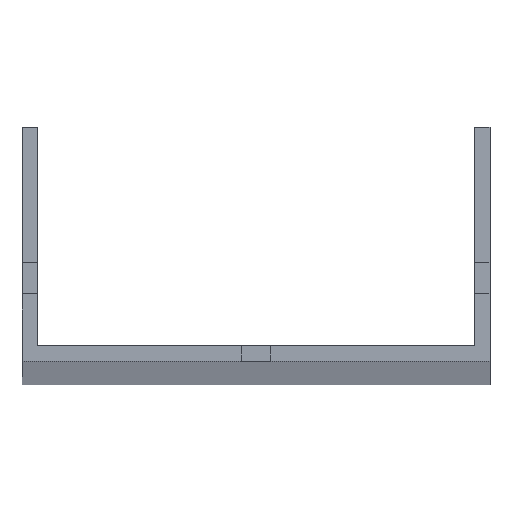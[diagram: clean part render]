
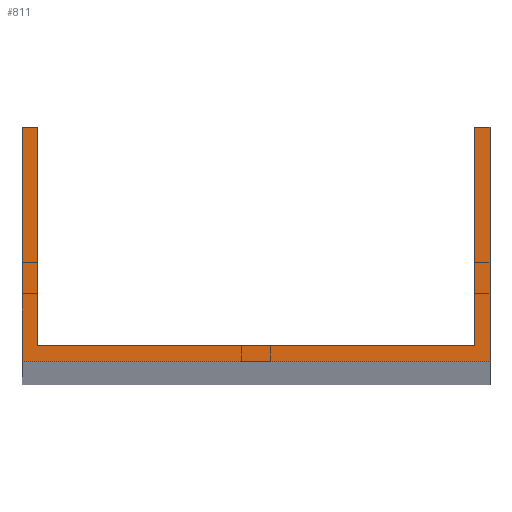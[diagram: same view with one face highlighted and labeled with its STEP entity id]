
A CAD part, top view. The second image highlights one B-rep face of the part: STEP entity #811.
In plain terms, the highlighted planar face has unit normal (0, 0, 1).
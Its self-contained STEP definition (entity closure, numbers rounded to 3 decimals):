
#9 = CARTESIAN_POINT ( 'NONE',  ( 48.5, 52., 1500. ) ) ;
#15 = CARTESIAN_POINT ( 'NONE',  ( -48.5, 3.5, 1500. ) ) ;
#21 = CARTESIAN_POINT ( 'NONE',  ( -52., 52., 1500. ) ) ;
#34 = EDGE_CURVE ( 'NONE', #265, #203, #524, .T. ) ;
#71 = EDGE_CURVE ( 'NONE', #82, #104, #382, .T. ) ;
#76 = CARTESIAN_POINT ( 'NONE',  ( 0., 0., 1500. ) ) ;
#82 = VERTEX_POINT ( 'NONE', #986 ) ;
#100 = VECTOR ( 'NONE', #377, 1000. ) ;
#104 = VERTEX_POINT ( 'NONE', #15 ) ;
#124 = ORIENTED_EDGE ( 'NONE', *, *, #615, .T. ) ;
#157 = PLANE ( 'NONE',  #423 ) ;
#183 = LINE ( 'NONE', #791, #1119 ) ;
#192 = CARTESIAN_POINT ( 'NONE',  ( -52., 0., 1500. ) ) ;
#203 = VERTEX_POINT ( 'NONE', #192 ) ;
#222 = EDGE_CURVE ( 'NONE', #104, #679, #183, .T. ) ;
#231 = EDGE_CURVE ( 'NONE', #82, #265, #1004, .T. ) ;
#240 = VERTEX_POINT ( 'NONE', #826 ) ;
#265 = VERTEX_POINT ( 'NONE', #314 ) ;
#281 = VECTOR ( 'NONE', #368, 1000. ) ;
#301 = VECTOR ( 'NONE', #619, 1000. ) ;
#304 = LINE ( 'NONE', #21, #386 ) ;
#314 = CARTESIAN_POINT ( 'NONE',  ( -52., 52., 1500. ) ) ;
#330 = VECTOR ( 'NONE', #1042, 1000. ) ;
#334 = DIRECTION ( 'NONE',  ( 0., -1., 0. ) ) ;
#365 = CARTESIAN_POINT ( 'NONE',  ( -52., 52., 1500. ) ) ;
#368 = DIRECTION ( 'NONE',  ( 0., 1., 0. ) ) ;
#377 = DIRECTION ( 'NONE',  ( 0., -1., 0. ) ) ;
#382 = LINE ( 'NONE', #799, #100 ) ;
#386 = VECTOR ( 'NONE', #995, 1000. ) ;
#390 = CARTESIAN_POINT ( 'NONE',  ( 52., 52., 1500. ) ) ;
#415 = EDGE_CURVE ( 'NONE', #679, #463, #954, .T. ) ;
#423 = AXIS2_PLACEMENT_3D ( 'NONE', #76, #1040, #514 ) ;
#427 = ORIENTED_EDGE ( 'NONE', *, *, #857, .T. ) ;
#429 = CARTESIAN_POINT ( 'NONE',  ( 48.5, 52., 1500. ) ) ;
#447 = CARTESIAN_POINT ( 'NONE',  ( -52., 52., 1500. ) ) ;
#451 = DIRECTION ( 'NONE',  ( 1., 0., 0. ) ) ;
#463 = VERTEX_POINT ( 'NONE', #429 ) ;
#514 = DIRECTION ( 'NONE',  ( 1., 0., 0. ) ) ;
#517 = ORIENTED_EDGE ( 'NONE', *, *, #71, .F. ) ;
#524 = LINE ( 'NONE', #447, #918 ) ;
#615 = EDGE_CURVE ( 'NONE', #1101, #240, #987, .T. ) ;
#619 = DIRECTION ( 'NONE',  ( -1., 0., 0. ) ) ;
#661 = VECTOR ( 'NONE', #940, 1000. ) ;
#679 = VERTEX_POINT ( 'NONE', #930 ) ;
#692 = EDGE_CURVE ( 'NONE', #203, #1101, #1106, .T. ) ;
#710 = EDGE_LOOP ( 'NONE', ( #517, #1028, #1095, #936, #124, #427, #943, #996 ) ) ;
#791 = CARTESIAN_POINT ( 'NONE',  ( -52., 3.5, 1500. ) ) ;
#799 = CARTESIAN_POINT ( 'NONE',  ( -48.5, 52., 1500. ) ) ;
#811 = ADVANCED_FACE ( 'NONE', ( #946 ), #157, .T. ) ;
#826 = CARTESIAN_POINT ( 'NONE',  ( 52., 52., 1500. ) ) ;
#857 = EDGE_CURVE ( 'NONE', #240, #463, #304, .T. ) ;
#918 = VECTOR ( 'NONE', #334, 1000. ) ;
#919 = CARTESIAN_POINT ( 'NONE',  ( -52., 0., 1500. ) ) ;
#930 = CARTESIAN_POINT ( 'NONE',  ( 48.5, 3.5, 1500. ) ) ;
#936 = ORIENTED_EDGE ( 'NONE', *, *, #692, .T. ) ;
#940 = DIRECTION ( 'NONE',  ( 1., 0., 0. ) ) ;
#943 = ORIENTED_EDGE ( 'NONE', *, *, #415, .F. ) ;
#946 = FACE_OUTER_BOUND ( 'NONE', #710, .T. ) ;
#947 = CARTESIAN_POINT ( 'NONE',  ( 52., 0., 1500. ) ) ;
#954 = LINE ( 'NONE', #9, #330 ) ;
#986 = CARTESIAN_POINT ( 'NONE',  ( -48.5, 52., 1500. ) ) ;
#987 = LINE ( 'NONE', #390, #281 ) ;
#995 = DIRECTION ( 'NONE',  ( -1., 0., 0. ) ) ;
#996 = ORIENTED_EDGE ( 'NONE', *, *, #222, .F. ) ;
#1004 = LINE ( 'NONE', #365, #301 ) ;
#1028 = ORIENTED_EDGE ( 'NONE', *, *, #231, .T. ) ;
#1040 = DIRECTION ( 'NONE',  ( 0., 0., 1. ) ) ;
#1042 = DIRECTION ( 'NONE',  ( 0., 1., 0. ) ) ;
#1095 = ORIENTED_EDGE ( 'NONE', *, *, #34, .T. ) ;
#1101 = VERTEX_POINT ( 'NONE', #947 ) ;
#1106 = LINE ( 'NONE', #919, #661 ) ;
#1119 = VECTOR ( 'NONE', #451, 1000. ) ;
